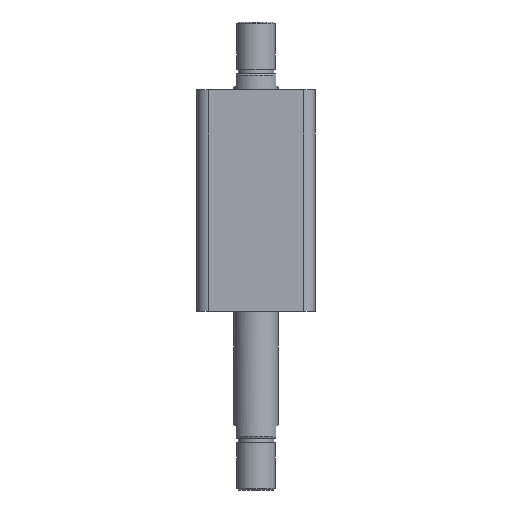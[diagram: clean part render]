
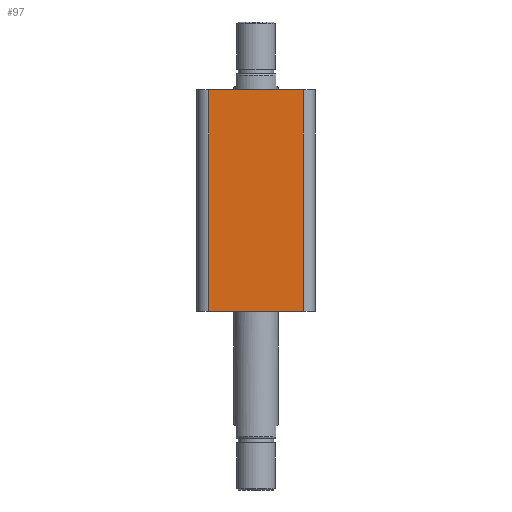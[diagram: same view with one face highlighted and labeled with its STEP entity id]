
A CAD part, front view. The second image highlights one B-rep face of the part: STEP entity #97.
In plain terms, the highlighted planar face has unit normal (0, -1, 0).
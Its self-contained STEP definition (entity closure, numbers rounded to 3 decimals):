
#74 = ORIENTED_EDGE ( 'NONE', *, *, #1289, .T. ) ;
#75 = ORIENTED_EDGE ( 'NONE', *, *, #1290, .T. ) ;
#76 = ORIENTED_EDGE ( 'NONE', *, *, #1291, .F. ) ;
#97 = ADVANCED_FACE ( 'NONE', ( #2344 ), #714, .F. ) ;
#710 = DIRECTION ( 'NONE',  ( 0., 0., 1. ) ) ;
#711 = DIRECTION ( 'NONE',  ( 0., 1., 0. ) ) ;
#714 = PLANE ( 'NONE',  #1401 ) ;
#718 = CARTESIAN_POINT ( 'NONE',  ( -40., -40., 150. ) ) ;
#932 = DIRECTION ( 'NONE',  ( 0., 0., 1. ) ) ;
#948 = CARTESIAN_POINT ( 'NONE',  ( -40., -40., 0. ) ) ;
#949 = CARTESIAN_POINT ( 'NONE',  ( 32., -40., 150. ) ) ;
#953 = DIRECTION ( 'NONE',  ( 1., 0., 0. ) ) ;
#954 = CARTESIAN_POINT ( 'NONE',  ( -32., -40., 150. ) ) ;
#955 = DIRECTION ( 'NONE',  ( 0., 0., -1. ) ) ;
#956 = CARTESIAN_POINT ( 'NONE',  ( -40., -40., 150. ) ) ;
#957 = DIRECTION ( 'NONE',  ( 1., 0., 0. ) ) ;
#1288 = EDGE_CURVE ( 'NONE', #2192, #2201, #3186, .T. ) ;
#1289 = EDGE_CURVE ( 'NONE', #2171, #2192, #3187, .T. ) ;
#1290 = EDGE_CURVE ( 'NONE', #2245, #2171, #3190, .T. ) ;
#1291 = EDGE_CURVE ( 'NONE', #2245, #2201, #3192, .T. ) ;
#1401 = AXIS2_PLACEMENT_3D ( 'NONE', #718, #711, #710 ) ;
#2102 = EDGE_LOOP ( 'NONE', ( #76, #75, #74, #2397 ) ) ;
#2171 = VERTEX_POINT ( 'NONE', #2585 ) ;
#2192 = VERTEX_POINT ( 'NONE', #2606 ) ;
#2201 = VERTEX_POINT ( 'NONE', #2615 ) ;
#2245 = VERTEX_POINT ( 'NONE', #2654 ) ;
#2344 = FACE_OUTER_BOUND ( 'NONE', #2102, .T. ) ;
#2397 = ORIENTED_EDGE ( 'NONE', *, *, #1288, .T. ) ;
#2585 = CARTESIAN_POINT ( 'NONE',  ( -32., -40., 0. ) ) ;
#2606 = CARTESIAN_POINT ( 'NONE',  ( 32., -40., 0. ) ) ;
#2615 = CARTESIAN_POINT ( 'NONE',  ( 32., -40., 150. ) ) ;
#2654 = CARTESIAN_POINT ( 'NONE',  ( -32., -40., 150. ) ) ;
#3186 = LINE ( 'NONE', #949, #3189 ) ;
#3187 = LINE ( 'NONE', #948, #3191 ) ;
#3189 = VECTOR ( 'NONE', #932, 1000. ) ;
#3190 = LINE ( 'NONE', #954, #3193 ) ;
#3191 = VECTOR ( 'NONE', #953, 1000. ) ;
#3192 = LINE ( 'NONE', #956, #3195 ) ;
#3193 = VECTOR ( 'NONE', #955, 1000. ) ;
#3195 = VECTOR ( 'NONE', #957, 1000. ) ;
